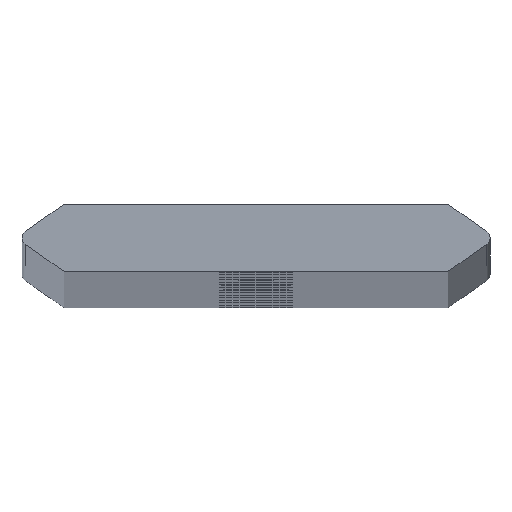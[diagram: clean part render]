
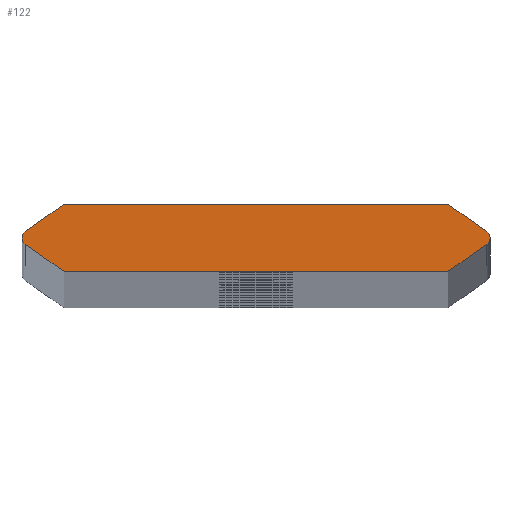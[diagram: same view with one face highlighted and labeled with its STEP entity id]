
A CAD part, top view. The second image highlights one B-rep face of the part: STEP entity #122.
In plain terms, the highlighted planar face has unit normal (0, 0, 1).
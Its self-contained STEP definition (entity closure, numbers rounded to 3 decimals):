
#122=ADVANCED_FACE('',(#226),#227,.T.);
#226=FACE_OUTER_BOUND('',#382,.T.);
#227=PLANE('',#383);
#382=EDGE_LOOP('',(#773,#774,#775,#776,#777,#778,#779,#780,#781,#782));
#383=AXIS2_PLACEMENT_3D('',#783,#784,#785);
#773=ORIENTED_EDGE('',*,*,#941,.T.);
#774=ORIENTED_EDGE('',*,*,#1078,.T.);
#775=ORIENTED_EDGE('',*,*,#1079,.F.);
#776=ORIENTED_EDGE('',*,*,#1080,.F.);
#777=ORIENTED_EDGE('',*,*,#1081,.F.);
#778=ORIENTED_EDGE('',*,*,#937,.T.);
#779=ORIENTED_EDGE('',*,*,#1082,.T.);
#780=ORIENTED_EDGE('',*,*,#1083,.F.);
#781=ORIENTED_EDGE('',*,*,#1084,.F.);
#782=ORIENTED_EDGE('',*,*,#1085,.F.);
#783=CARTESIAN_POINT('',(0.,0.,1976.0));
#784=DIRECTION('',(0.0,0.0,1.0));
#785=DIRECTION('',(1.0,0.0,0.0));
#937=EDGE_CURVE('',#1101,#1098,#1102,.T.);
#941=EDGE_CURVE('',#1109,#1106,#1110,.T.);
#1078=EDGE_CURVE('',#1106,#1336,#1338,.T.);
#1079=EDGE_CURVE('',#1339,#1336,#1340,.T.);
#1080=EDGE_CURVE('',#1341,#1339,#1342,.T.);
#1081=EDGE_CURVE('',#1101,#1341,#1343,.T.);
#1082=EDGE_CURVE('',#1098,#1344,#1345,.T.);
#1083=EDGE_CURVE('',#1346,#1344,#1347,.T.);
#1084=EDGE_CURVE('',#1348,#1346,#1349,.T.);
#1085=EDGE_CURVE('',#1109,#1348,#1350,.T.);
#1098=VERTEX_POINT('',#1368);
#1101=VERTEX_POINT('',#1372);
#1102=CIRCLE('',#1373,0.76);
#1106=VERTEX_POINT('',#1378);
#1109=VERTEX_POINT('',#1382);
#1110=CIRCLE('',#1383,0.76);
#1336=VERTEX_POINT('',#1654);
#1338=CIRCLE('',#1657,0.76);
#1339=VERTEX_POINT('',#1658);
#1340=LINE('',#1659,#1660);
#1341=VERTEX_POINT('',#1661);
#1342=LINE('',#1662,#1663);
#1343=LINE('',#1664,#1665);
#1344=VERTEX_POINT('',#1666);
#1345=CIRCLE('',#1667,0.76);
#1346=VERTEX_POINT('',#1668);
#1347=LINE('',#1669,#1670);
#1348=VERTEX_POINT('',#1671);
#1349=LINE('',#1672,#1673);
#1350=LINE('',#1674,#1675);
#1368=CARTESIAN_POINT('',(22.225,0.,1976.0));
#1372=CARTESIAN_POINT('',(21.904,-0.62,1976.0));
#1373=AXIS2_PLACEMENT_3D('',#1705,#1706,#1707);
#1378=CARTESIAN_POINT('',(-22.225,0.,1976.0));
#1382=CARTESIAN_POINT('',(-21.904,0.62,1976.0));
#1383=AXIS2_PLACEMENT_3D('',#1713,#1714,#1715);
#1654=CARTESIAN_POINT('',(-21.904,-0.62,1976.0));
#1657=AXIS2_PLACEMENT_3D('',#2032,#2033,#2034);
#1658=CARTESIAN_POINT('',(-18.206,-3.21,1976.0));
#1659=CARTESIAN_POINT('',(-22.79,0.,1976.0));
#1660=VECTOR('',#2035,1.0);
#1661=CARTESIAN_POINT('',(18.206,-3.21,1976.0));
#1662=CARTESIAN_POINT('',(18.206,-3.21,1976.0));
#1663=VECTOR('',#2036,1.0);
#1664=CARTESIAN_POINT('',(22.79,0.0,1976.0));
#1665=VECTOR('',#2037,1.0);
#1666=CARTESIAN_POINT('',(21.904,0.62,1976.0));
#1667=AXIS2_PLACEMENT_3D('',#2038,#2039,#2040);
#1668=CARTESIAN_POINT('',(18.206,3.21,1976.0));
#1669=CARTESIAN_POINT('',(22.79,0.0,1976.0));
#1670=VECTOR('',#2041,1.0);
#1671=CARTESIAN_POINT('',(-18.206,3.21,1976.0));
#1672=CARTESIAN_POINT('',(-18.206,3.21,1976.0));
#1673=VECTOR('',#2042,1.0);
#1674=CARTESIAN_POINT('',(-22.79,0.,1976.0));
#1675=VECTOR('',#2043,1.0);
#1705=CARTESIAN_POINT('',(21.465,0.0,1976.0));
#1706=DIRECTION('',(0.0,0.0,1.0));
#1707=DIRECTION('',(1.0,0.0,0.0));
#1713=CARTESIAN_POINT('',(-21.465,0.,1976.0));
#1714=DIRECTION('',(0.0,0.0,1.0));
#1715=DIRECTION('',(-1.0,0.,0.0));
#2032=CARTESIAN_POINT('',(-21.465,0.,1976.0));
#2033=DIRECTION('',(0.0,0.0,1.0));
#2034=DIRECTION('',(-1.0,0.,0.0));
#2035=DIRECTION('',(-0.819,0.574,0.0));
#2036=DIRECTION('',(-1.0,0.,0.0));
#2037=DIRECTION('',(-0.819,-0.574,0.0));
#2038=CARTESIAN_POINT('',(21.465,0.0,1976.0));
#2039=DIRECTION('',(0.0,0.0,1.0));
#2040=DIRECTION('',(1.0,0.0,0.0));
#2041=DIRECTION('',(0.819,-0.574,0.0));
#2042=DIRECTION('',(1.0,0.,0.0));
#2043=DIRECTION('',(0.819,0.574,0.0));
